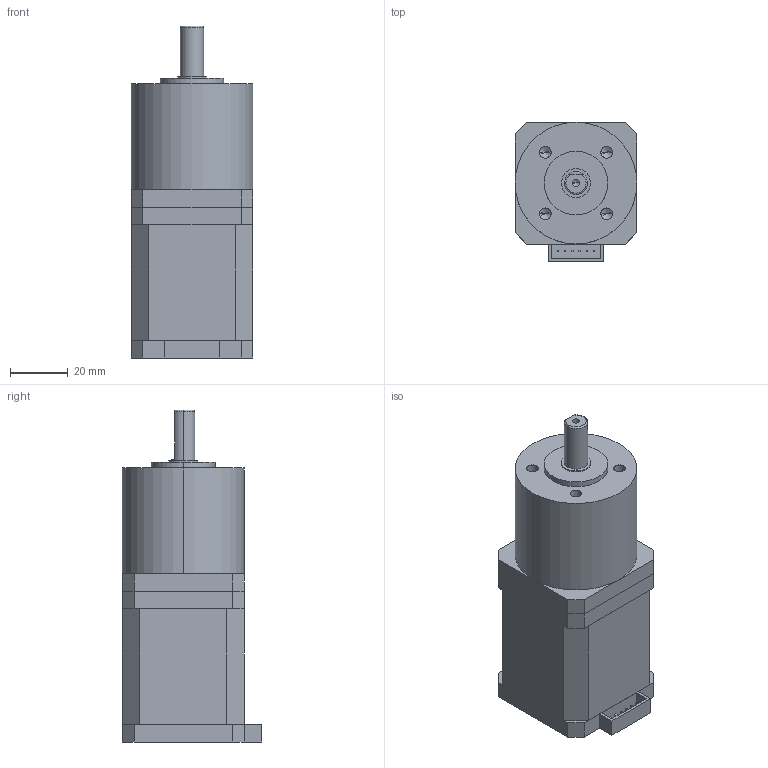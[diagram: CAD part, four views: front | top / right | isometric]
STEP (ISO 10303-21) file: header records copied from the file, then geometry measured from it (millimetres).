
FILE_DESCRIPTION (( 'STEP AP203' ), '1' );
FILE_NAME ('T42PG015-D20-0450.STEP', '2019-10-25T07:41:54', ( 'China' ), ( 'Home' ), 'SwSTEP 2.0', 'SolidWorks 2016', '' );
FILE_SCHEMA (( 'CONFIG_CONTROL_DESIGN' ));
Length unit declared in the file: millimetre
Products named in the file (1): T42PG015-D20-0450
Bounding box: 42 x 48 x 114.5 mm (x, y, z)
Volume: 150846.7 mm3; surface area: 29204.8 mm2
Topology: 4 solids, 4 shells, 127 faces, 301 edges, 187 vertices
Faces by surface type: plane 88, cone 18, cylinder 18, bspline 3
Entity records: 3676 total; most frequent: CARTESIAN_POINT 706, DIRECTION 586, ORIENTED_EDGE 582, EDGE_CURVE 291, LINE 236, VECTOR 236, VERTEX_POINT 187, AXIS2_PLACEMENT_3D 175
